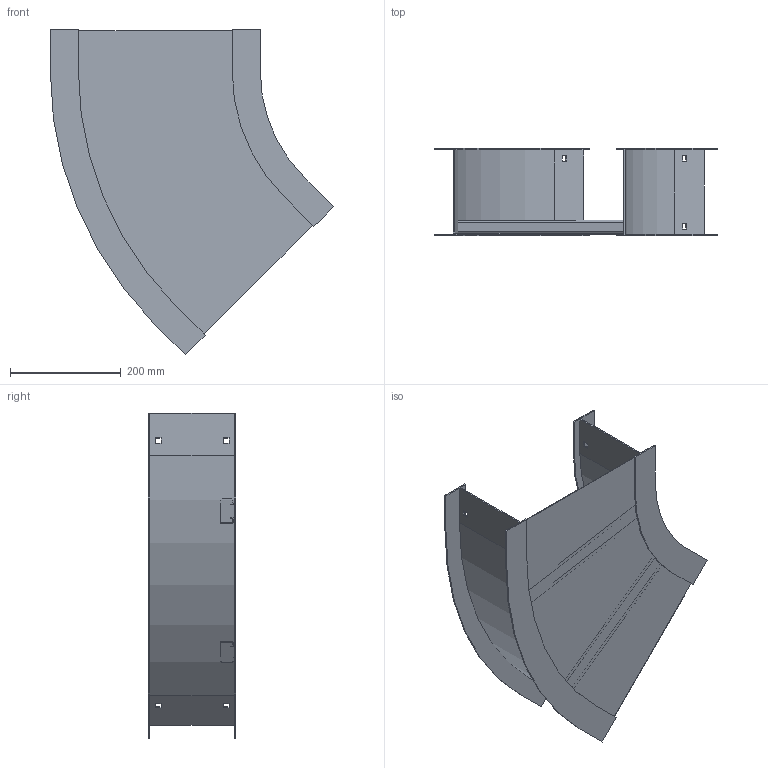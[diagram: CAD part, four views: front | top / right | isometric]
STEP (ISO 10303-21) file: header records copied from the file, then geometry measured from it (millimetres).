
FILE_DESCRIPTION((''),'2;1');
FILE_NAME('AHF612SHB4512_ASM','2010-01-28T',('erouzier'),(''),'PRO/ENGINEER BY PARAMETRIC TECHNOLOGY CORPORATION, 2008510','PRO/ENGINEER BY PARAMETRIC TECHNOLOGY CORPORATION, 2008510','');
FILE_SCHEMA(('CONFIG_CONTROL_DESIGN'));
Length unit declared in the file: inch
Products named in the file (5): CDS001812-6-45-12-I; CDS001812-6-45-24-O; CDS002159L12; ED04588-12-12-45; AHF612SHB4512_ASM
Assembly tree (5 placements, depth 2):
  AHF612SHB4512_ASM
    CDS001812-6-45-12-I
    CDS001812-6-45-24-O
    CDS002159L12  x2
    ED04588-12-12-45
Bounding box: 512.22 x 157.99 x 589.06 mm (x, y, z)
Volume: 901410.9 mm3; surface area: 981097 mm2
Topology: 5 solids, 5 shells, 154 faces, 432 edges, 288 vertices
Faces by surface type: plane 118, cylinder 36
Entity records: 4141 total; most frequent: CARTESIAN_POINT 714, ORIENTED_EDGE 696, DIRECTION 666, EDGE_CURVE 348, VECTOR 298, LINE 298, VERTEX_POINT 232, AXIS2_PLACEMENT_3D 184
